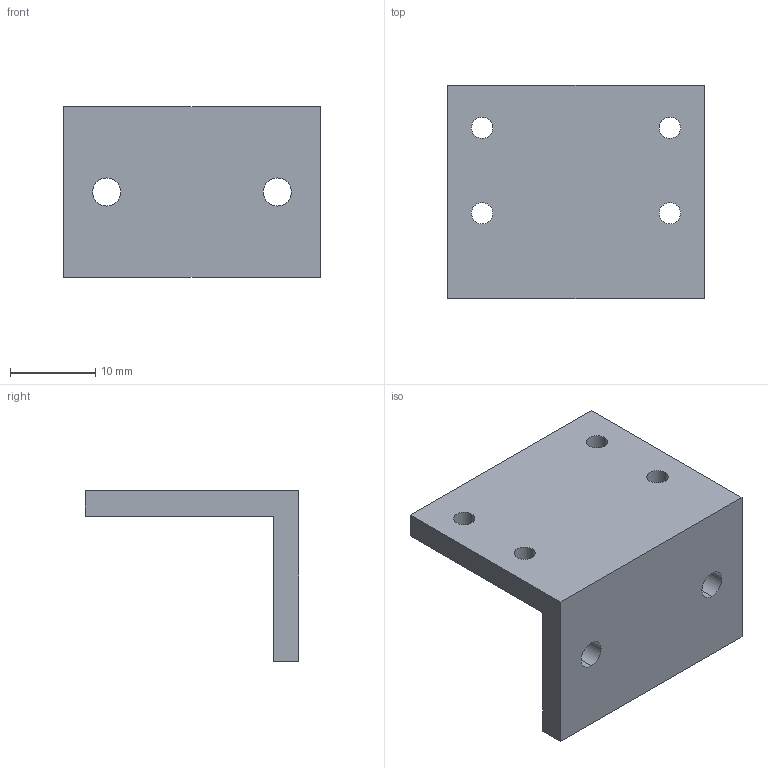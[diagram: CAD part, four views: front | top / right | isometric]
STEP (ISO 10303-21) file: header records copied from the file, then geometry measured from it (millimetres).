
FILE_DESCRIPTION (( 'STEP AP214' ), '1' );
FILE_NAME ('20837.STEP', '2021-10-14T04:05:12', ( '' ), ( '' ), 'SwSTEP 2.0', 'SolidWorks 2018', '' );
FILE_SCHEMA (( 'AUTOMOTIVE_DESIGN' ));
Length unit declared in the file: millimetre
Products named in the file (1): 20837
Bounding box: 30 x 25 x 20 mm (x, y, z)
Volume: 3669.8 mm3; surface area: 3035 mm2
Topology: 1 solids, 1 shells, 20 faces, 54 edges, 36 vertices
Faces by surface type: cylinder 12, plane 8
Entity records: 832 total; most frequent: DIRECTION 120, CARTESIAN_POINT 111, ORIENTED_EDGE 108, EDGE_CURVE 54, AXIS2_PLACEMENT_3D 45, VERTEX_POINT 36, EDGE_LOOP 32, VECTOR 30
